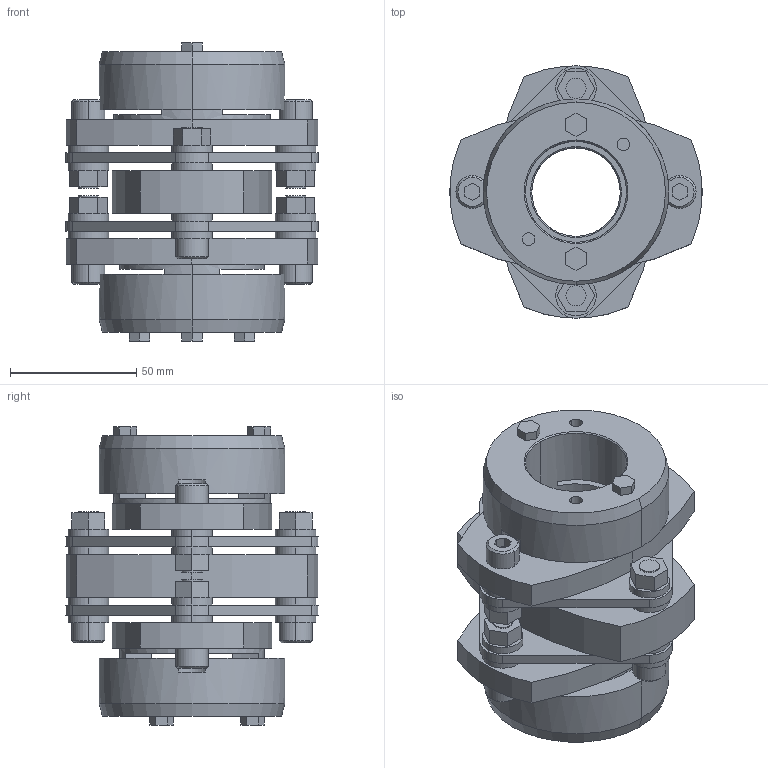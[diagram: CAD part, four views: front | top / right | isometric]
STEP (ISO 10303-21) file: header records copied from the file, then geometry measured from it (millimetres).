
FILE_DESCRIPTION((''),'2;1');
FILE_NAME('LCD-100T7-35×40.stp','2011-09-09T09:04:20',(''),(''),'AutoCAD STEP 2000i','AutoCAD 2000i',', , ');
FILE_SCHEMA(('CONFIG_CONTROL_DESIGN'));
Length unit declared in the file: millimetre
Products named in the file (10): LCD-100T7-35×38; 忣兜1; LC100T7-T038; LC100T7-T035-1; LC100T7-T035; LC100T7-T030; LC100T7-T025; LC100T7-T022-1; LC100T7-T022; LCD100-ITA
Assembly tree (9 placements, depth 2):
  LCD-100T7-35×38
    忣兜1
    LC100T7-T038
    LC100T7-T035-1
    LC100T7-T035
    LC100T7-T030
    LC100T7-T025
    LC100T7-T022-1
    LC100T7-T022
    LCD100-ITA
Bounding box: 100 x 99.93 x 118 mm (x, y, z)
Volume: 359989.9 mm3; surface area: 92556.1 mm2
Topology: 1 solids, 1 shells, 321 faces, 786 edges, 516 vertices
Faces by surface type: plane 173, cylinder 124, cone 24
Entity records: 9777 total; most frequent: DIRECTION 1744, CARTESIAN_POINT 1633, ORIENTED_EDGE 1572, EDGE_CURVE 786, AXIS2_PLACEMENT_3D 627, VERTEX_POINT 516, VECTOR 490, LINE 490
